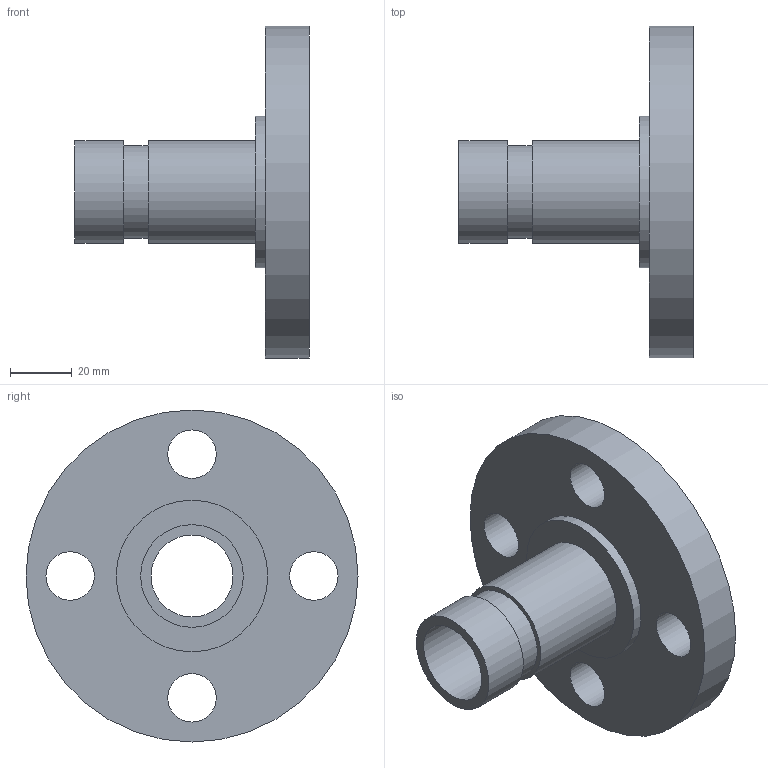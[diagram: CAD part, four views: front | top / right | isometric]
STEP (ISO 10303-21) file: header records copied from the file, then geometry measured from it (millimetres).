
FILE_DESCRIPTION(/* description */ ('VIC FLANGE ADAPTER No 45F','CAx-IF Rec.Pracs.---Representation and Presentation of Product Manufacturing Information (PMI)---4.0---2014-10-13'),/* implementation_level */ '2;1');
FILE_NAME(/* name */ 'C:\Users\kkamble\AppData\Roaming\Autodesk\ApplicationPlugins\Back Up\Victaulic_IPS_Flanged Adapter Nipple_CL 150 FF_No 45F (OGSxFLG)\Victaulic_IPS_Flanged Adapter Nipple_CL 150 FF_No 45F (OGSxFLG)_1 (25).stp',/* time_stamp */ '2020-07-26T22:22:40+06:00',/* author */ ('CONSTRUCTION PIPING SERVICES'),/* organization */ ('Victaulic'),/* preprocessor_version */ 'ST-DEVELOPER v17.2',/* originating_system */ 'Autodesk Inventor 2019',/* authorisation */ '');
FILE_SCHEMA (('AP242_MANAGED_MODEL_BASED_3D_ENGINEERING_MIM_LF { 1 0 10303 442 1 1 4 }'));
Length unit declared in the file: inch
Products named in the file (1): 045F-01.0
Bounding box: 76.2 x 107.95 x 107.95 mm (x, y, z)
Volume: 133060.5 mm3; surface area: 36554.6 mm2
Topology: 1 solids, 1 shells, 16 faces, 42 edges, 32 vertices
Faces by surface type: cylinder 10, plane 6
Full cylindrical faces by diameter (mm): 15.748 x4, 26.645 x1, 30.226 x1, 33.401 x2, 49.276 x1, 107.95 x1
Entity records: 622 total; most frequent: DIRECTION 108, CARTESIAN_POINT 91, ORIENTED_EDGE 84, AXIS2_PLACEMENT_3D 49, EDGE_CURVE 42, CIRCLE 32, VERTEX_POINT 32, EDGE_LOOP 30
